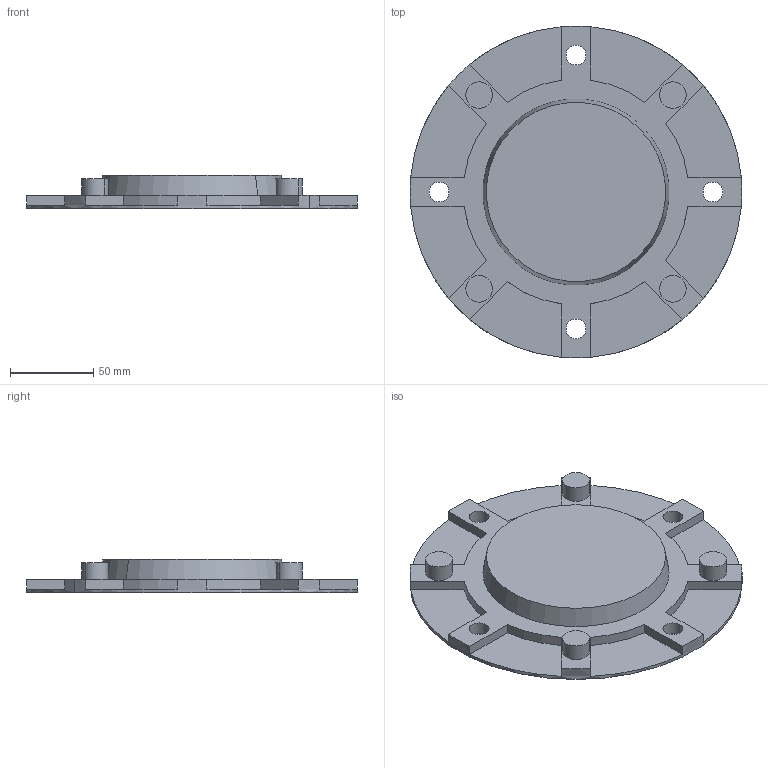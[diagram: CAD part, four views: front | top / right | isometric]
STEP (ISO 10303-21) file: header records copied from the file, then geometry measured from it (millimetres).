
FILE_DESCRIPTION(/* description */ (''),/* implementation_level */ '2;1');
FILE_NAME(/* name */ '5_COPRIMOZZO NMRV-P110',/* time_stamp */ '2025-10-09T15:38:34+02:00',/* author */ (''),/* organization */ (''),/* preprocessor_version */ 'ST-DEVELOPER v19.2',/* originating_system */ 'Rhino 8.23',/* authorisation */ '');
FILE_SCHEMA (('CONFIG_CONTROL_DESIGN'));
Length unit declared in the file: millimetre
Products named in the file (2): Document; Corona 110-p
Bounding box: 199.91 x 199.91 x 20 mm (x, y, z)
Volume: 296655.8 mm3; surface area: 75542.6 mm2
Topology: 1 solids, 1 shells, 59 faces, 156 edges, 104 vertices
Faces by surface type: plane 31, cylinder 26, bspline 2
Entity records: 2240 total; most frequent: CARTESIAN_POINT 569, ORIENTED_EDGE 312, DIRECTION 209, EDGE_CURVE 156, AXIS2_PLACEMENT_3D 133, VERTEX_POINT 104, B_SPLINE_CURVE_WITH_KNOTS 84, EDGE_LOOP 72
